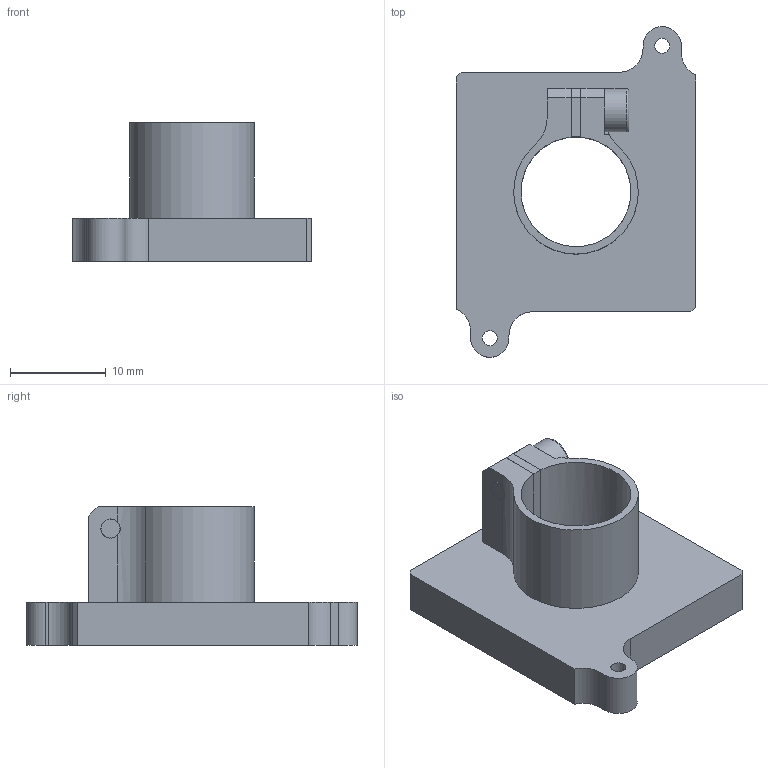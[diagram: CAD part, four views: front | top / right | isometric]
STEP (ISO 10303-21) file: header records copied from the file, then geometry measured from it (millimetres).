
FILE_DESCRIPTION(/* description */ (''),/* implementation_level */ '2;1');
FILE_NAME(/* name */ 'KSM_306-23-00-10-00_ZB Klemm-Minilinsenhalter,10 mm.stp',/* time_stamp */ '2024-10-24T19:11:35+02:00',/* author */ ('khw'),/* organization */ ('TIS/ Germany'),/* preprocessor_version */ 'ST-DEVELOPER v20',/* originating_system */ 'Autodesk Inventor 2025',/* authorisation */ '520025 mm^3');
FILE_SCHEMA (('AUTOMOTIVE_DESIGN { 1 0 10303 214 3 1 1 }'));
Length unit declared in the file: millimetre
Products named in the file (4): 306-23-00-10-00_ZB Klemm-Minilinsenhalter, 10 mm; 306-23-00-10-01_Klemm-Minilinsenhalter, 10 mm; 306-23-00-10-02_Silikon-Dichtmasse; ISO 4762 - M2,5 x 6 - 8.8
Assembly tree (3 placements, depth 2):
  306-23-00-10-00_ZB Klemm-Minilinsenhalter, 10 mm
    306-23-00-10-01_Klemm-Minilinsenhalter, 10 mm
    306-23-00-10-02_Silikon-Dichtmasse
    ISO 4762 - M2,5 x 6 - 8.8
Bounding box: 25 x 34.5 x 14.5 mm (x, y, z)
Volume: 1569.2 mm3; surface area: 3222.5 mm2
Topology: 3 solids, 3 shells, 69 faces, 186 edges, 124 vertices
Faces by surface type: plane 41, cylinder 24, torus 2, cone 2
Full cylindrical faces by diameter (mm): 1.567 x2, 2.013 x1, 2.5 x1, 2.7 x2, 4.5 x1, 11.459 x1
Entity records: 2374 total; most frequent: CARTESIAN_POINT 427, DIRECTION 384, ORIENTED_EDGE 370, EDGE_CURVE 185, AXIS2_PLACEMENT_3D 133, VERTEX_POINT 124, LINE 118, VECTOR 118
